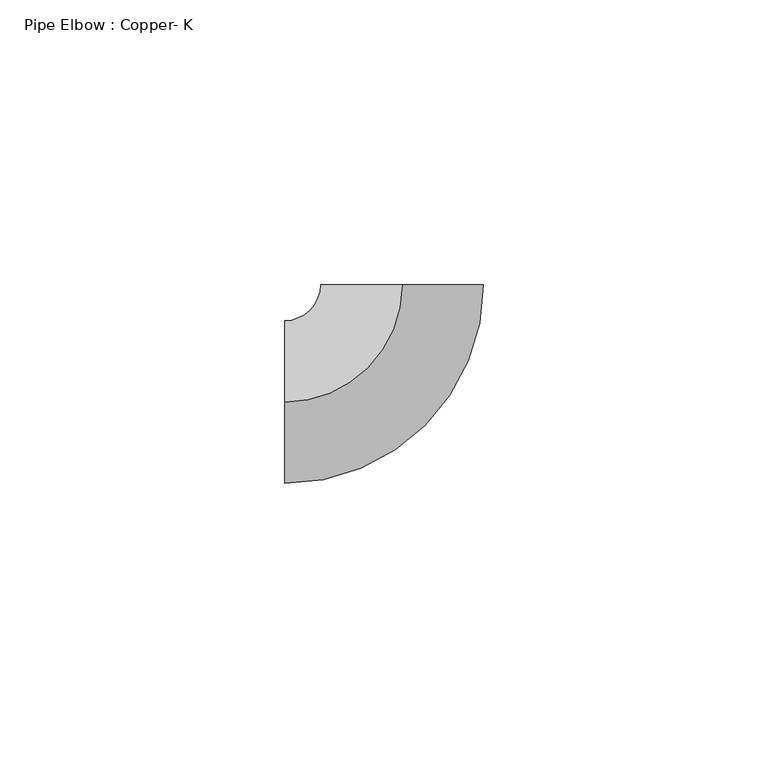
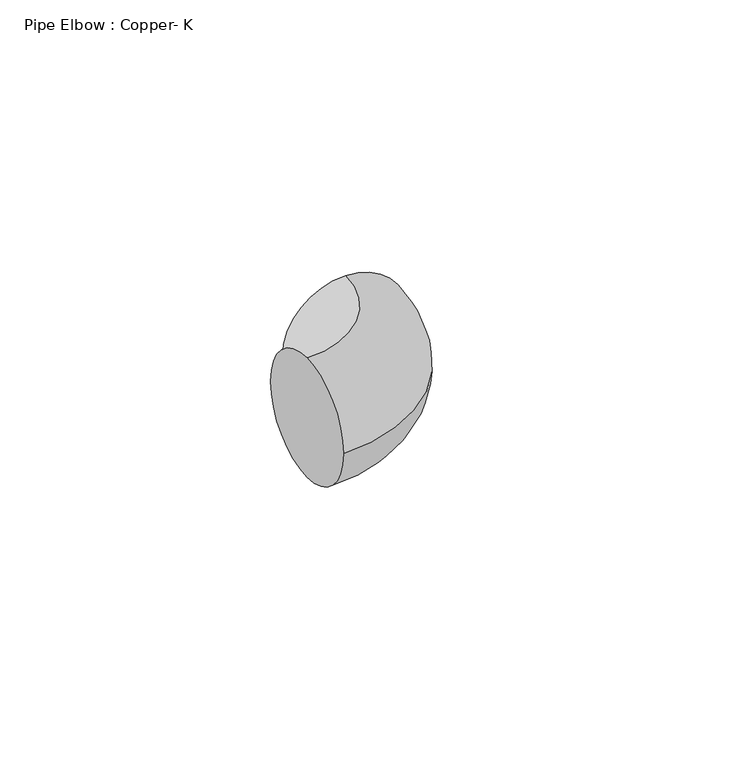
"""IFC4 building model written with IfcOpenShell, lengths in millimetres: pipe fitting geometry, Pipe Elbow : Copper- K."""

from ifc_helpers import new_model, si_unit, point, frame, origin, place, context, project, spatial, circle_curve, ellipse_curve, trimmed, source, transform, mapped, element, save
from ifc_brep_helpers import plane_surface, revolved_surface, advanced_brep


def pipe_elbow_copper_k_c94ec8ca(model_context):
    return source(origin(), model_context, "Body", "AdvancedBrep", [
        advanced_brep(
        [(-20.6375001, 0.0, 14.2875), (-20.6375001, 14.2875, 0.0), (-20.6375001, 0.0, -14.2875), (-20.6375001, -14.2875, 0.0), (-1e-07, 20.6375001, 14.2875), (14.2874999, 20.6375001, 0.0), (-1e-07, 20.6375001, -14.2875), (-14.2875001, 20.6375, 0.0)],
        [
            (0, 1, circle_curve(frame((-20.6375001, 0.0, 0.0), z_axis=(-1.0, 0.0, 0.0), x_axis=(0.0, 1.0, 0.0)), 14.2875)),
            (1, 2, circle_curve(frame((-20.6375001, 0.0, 0.0), z_axis=(-1.0, 0.0, 0.0), x_axis=(0.0, 1.0, 0.0)), 14.2875)),
            (2, 3, circle_curve(frame((-20.6375001, 0.0, 0.0), z_axis=(-1.0, 0.0, 0.0), x_axis=(0.0, 1.0, 0.0)), 14.2875)),
            (3, 0, circle_curve(frame((-20.6375001, 0.0, 0.0), z_axis=(-1.0, 0.0, 0.0), x_axis=(0.0, 1.0, 0.0)), 14.2875)),
            (4, 5, circle_curve(frame((-1e-07, 20.6375001, 0.0), z_axis=(-3.843640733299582e-09, 1.0, 0.0), x_axis=(-1.0, -3.843640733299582e-09, 0.0)), 14.2875)),
            (5, 6, circle_curve(frame((-1e-07, 20.6375001, 0.0), z_axis=(-3.843640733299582e-09, 1.0, 0.0), x_axis=(-1.0, -3.843640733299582e-09, 0.0)), 14.2875)),
            (6, 7, circle_curve(frame((-1e-07, 20.6375001, 0.0), z_axis=(-3.843640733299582e-09, 1.0, 0.0), x_axis=(-1.0, -3.843640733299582e-09, 0.0)), 14.2875)),
            (7, 4, circle_curve(frame((-1e-07, 20.6375001, 0.0), z_axis=(-3.843640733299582e-09, 1.0, 0.0), x_axis=(-1.0, -3.843640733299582e-09, 0.0)), 14.2875)),
            (7, 1, circle_curve(frame((-20.6375001, 20.6375, 0.0), z_axis=(0.0, 0.0, -1.0), x_axis=(0.0, -1.0, 0.0)), 6.35)),
            (0, 4, circle_curve(frame((-20.6375001, 20.6375, 14.2875), z_axis=(0.0, 0.0, 1.0), x_axis=(0.0, -1.0, 0.0)), 20.6375)),
            (6, 2, circle_curve(frame((-20.6375001, 20.6375, -14.2875), z_axis=(0.0, 0.0, -1.0), x_axis=(0.0, -1.0, 0.0)), 20.6375)),
            (5, 3, circle_curve(frame((-20.6375001, 20.6375, 0.0), z_axis=(0.0, 0.0, -1.0), x_axis=(0.0, -1.0, 0.0)), 34.925)),
        ],
        [
            plane_surface(frame((-20.6375001, 0.0, 0.0), z_axis=(-1.0, 0.0, 0.0), x_axis=(0.0, 0.0, 1.0))),
            plane_surface(frame((-1e-07, 20.6375001, 0.0), z_axis=(-3.843640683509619e-09, 1.0, 0.0), x_axis=(0.0, 0.0, 1.0))),
            revolved_surface(trimmed(ellipse_curve(frame((-20.6375001, 0.0, 0.0), z_axis=(-1.0, 0.0, 0.0), x_axis=(0.0, 1.0, 0.0)), 14.2875, 14.2875), [point((-20.6375001, 0.0, 14.2875))], [point((-20.6375001, 14.2875, 0.0))], True, "CARTESIAN"), (-20.6375001, 20.6375, 0.0), (0.0, 0.0, 1.0)),
            revolved_surface(trimmed(ellipse_curve(frame((-20.6375001, 0.0, 0.0), z_axis=(-1.0, 0.0, 0.0), x_axis=(0.0, 1.0, 0.0)), 14.2875, 14.2875), [point((-20.6375001, 14.2875, 0.0))], [point((-20.6375001, 0.0, -14.2875))], True, "CARTESIAN"), (-20.6375001, 20.6375, 0.0), (0.0, 0.0, 1.0)),
            revolved_surface(trimmed(ellipse_curve(frame((-20.6375001, 0.0, 0.0), z_axis=(-1.0, 0.0, 0.0), x_axis=(0.0, 1.0, 0.0)), 14.2875, 14.2875), [point((-20.6375001, 0.0, -14.2875))], [point((-20.6375001, -14.2875, 0.0))], True, "CARTESIAN"), (-20.6375001, 20.6375, 0.0), (0.0, 0.0, 1.0)),
            revolved_surface(trimmed(ellipse_curve(frame((-20.6375001, 0.0, 0.0), z_axis=(-1.0, 0.0, 0.0), x_axis=(0.0, 1.0, 0.0)), 14.2875, 14.2875), [point((-20.6375001, -14.2875, 0.0))], [point((-20.6375001, 0.0, 14.2875))], True, "CARTESIAN"), (-20.6375001, 20.6375, 0.0), (0.0, 0.0, 1.0)),
        ],
        [
            (0, [[1, 2, 3, 4]]),
            (1, [[5, 6, 7, 8]]),
            (2, [[9, -1, 10, -8]]),
            (3, [[11, -2, -9, -7]]),
            (4, [[12, -3, -11, -6]]),
            (5, [[-10, -4, -12, -5]]),
        ],
    ),
        advanced_brep(
        [(-20.6375001, 0.0, 14.2875), (-20.6375001, 14.2875, 0.0), (-20.6375001, 0.0, -14.2875), (-20.6375001, -14.2875, 0.0), (-1e-07, 20.6375001, 14.2875), (14.2874999, 20.6375001, 0.0), (-1e-07, 20.6375001, -14.2875), (-14.2875001, 20.6375, 0.0)],
        [
            (0, 1, circle_curve(frame((-20.6375001, 0.0, 0.0), z_axis=(-1.0, 0.0, 0.0), x_axis=(0.0, 1.0, 0.0)), 14.2875)),
            (1, 2, circle_curve(frame((-20.6375001, 0.0, 0.0), z_axis=(-1.0, 0.0, 0.0), x_axis=(0.0, 1.0, 0.0)), 14.2875)),
            (2, 3, circle_curve(frame((-20.6375001, 0.0, 0.0), z_axis=(-1.0, 0.0, 0.0), x_axis=(0.0, 1.0, 0.0)), 14.2875)),
            (3, 0, circle_curve(frame((-20.6375001, 0.0, 0.0), z_axis=(-1.0, 0.0, 0.0), x_axis=(0.0, 1.0, 0.0)), 14.2875)),
            (4, 5, circle_curve(frame((-1e-07, 20.6375001, 0.0), z_axis=(-3.843640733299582e-09, 1.0, 0.0), x_axis=(-1.0, -3.843640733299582e-09, 0.0)), 14.2875)),
            (5, 6, circle_curve(frame((-1e-07, 20.6375001, 0.0), z_axis=(-3.843640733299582e-09, 1.0, 0.0), x_axis=(-1.0, -3.843640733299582e-09, 0.0)), 14.2875)),
            (6, 7, circle_curve(frame((-1e-07, 20.6375001, 0.0), z_axis=(-3.843640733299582e-09, 1.0, 0.0), x_axis=(-1.0, -3.843640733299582e-09, 0.0)), 14.2875)),
            (7, 4, circle_curve(frame((-1e-07, 20.6375001, 0.0), z_axis=(-3.843640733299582e-09, 1.0, 0.0), x_axis=(-1.0, -3.843640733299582e-09, 0.0)), 14.2875)),
            (7, 1, circle_curve(frame((-20.6375001, 20.6375, 0.0), z_axis=(0.0, 0.0, -1.0), x_axis=(0.0, -1.0, 0.0)), 6.35)),
            (0, 4, circle_curve(frame((-20.6375001, 20.6375, 14.2875), z_axis=(0.0, 0.0, 1.0), x_axis=(0.0, -1.0, 0.0)), 20.6375)),
            (6, 2, circle_curve(frame((-20.6375001, 20.6375, -14.2875), z_axis=(0.0, 0.0, -1.0), x_axis=(0.0, -1.0, 0.0)), 20.6375)),
            (5, 3, circle_curve(frame((-20.6375001, 20.6375, 0.0), z_axis=(0.0, 0.0, -1.0), x_axis=(0.0, -1.0, 0.0)), 34.925)),
        ],
        [
            plane_surface(frame((-20.6375001, 0.0, 0.0), z_axis=(-1.0, 0.0, 0.0), x_axis=(0.0, 0.0, 1.0))),
            plane_surface(frame((-1e-07, 20.6375001, 0.0), z_axis=(-3.843640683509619e-09, 1.0, 0.0), x_axis=(0.0, 0.0, 1.0))),
            revolved_surface(trimmed(ellipse_curve(frame((-20.6375001, 0.0, 0.0), z_axis=(-1.0, 0.0, 0.0), x_axis=(0.0, 1.0, 0.0)), 14.2875, 14.2875), [point((-20.6375001, 0.0, 14.2875))], [point((-20.6375001, 14.2875, 0.0))], True, "CARTESIAN"), (-20.6375001, 20.6375, 0.0), (0.0, 0.0, 1.0)),
            revolved_surface(trimmed(ellipse_curve(frame((-20.6375001, 0.0, 0.0), z_axis=(-1.0, 0.0, 0.0), x_axis=(0.0, 1.0, 0.0)), 14.2875, 14.2875), [point((-20.6375001, 14.2875, 0.0))], [point((-20.6375001, 0.0, -14.2875))], True, "CARTESIAN"), (-20.6375001, 20.6375, 0.0), (0.0, 0.0, 1.0)),
            revolved_surface(trimmed(ellipse_curve(frame((-20.6375001, 0.0, 0.0), z_axis=(-1.0, 0.0, 0.0), x_axis=(0.0, 1.0, 0.0)), 14.2875, 14.2875), [point((-20.6375001, 0.0, -14.2875))], [point((-20.6375001, -14.2875, 0.0))], True, "CARTESIAN"), (-20.6375001, 20.6375, 0.0), (0.0, 0.0, 1.0)),
            revolved_surface(trimmed(ellipse_curve(frame((-20.6375001, 0.0, 0.0), z_axis=(-1.0, 0.0, 0.0), x_axis=(0.0, 1.0, 0.0)), 14.2875, 14.2875), [point((-20.6375001, -14.2875, 0.0))], [point((-20.6375001, 0.0, 14.2875))], True, "CARTESIAN"), (-20.6375001, 20.6375, 0.0), (0.0, 0.0, 1.0)),
        ],
        [
            (0, [[1, 2, 3, 4]]),
            (1, [[5, 6, 7, 8]]),
            (2, [[9, -1, 10, -8]]),
            (3, [[11, -2, -9, -7]]),
            (4, [[12, -3, -11, -6]]),
            (5, [[-10, -4, -12, -5]]),
        ],
    ),
    ])


if __name__ == "__main__":
    model = new_model("IFC4")
    model_context = context("Model", 3, world=origin())
    ifc_project = project(units=[si_unit("LENGTHUNIT", "METRE", prefix="MILLI")], contexts=[model_context])
    site = spatial("IfcSite", under=ifc_project)
    building = spatial("IfcBuilding", under=site)
    placement = place(None, origin())
    pipe_elbow_copper_k_shape = pipe_elbow_copper_k_c94ec8ca(model_context)
    element("IfcPipeFitting", 1, ObjectType="Pipe Elbow : Copper- K", at=placement, inside=building, context=model_context, shape_type="MappedRepresentation", body=[
        mapped(pipe_elbow_copper_k_shape, transform((0.0, 0.0, 0.0), x_axis=(1.0, 0.0, 0.0), y_axis=(0.0, 1.0, 0.0), z_axis=(0.0, 0.0, 1.0))),
    ])
    save(model, "model.ifc")
